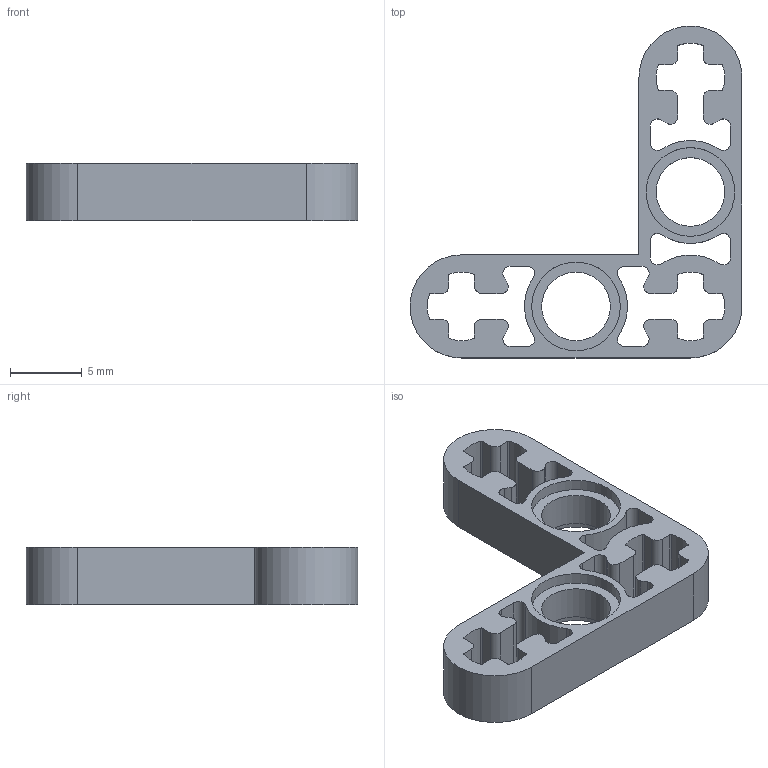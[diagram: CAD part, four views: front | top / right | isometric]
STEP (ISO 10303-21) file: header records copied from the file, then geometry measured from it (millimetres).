
FILE_DESCRIPTION(/* description */ ('Unknown'),/* implementation_level */ '2;1');
FILE_NAME(/* name */ 'Ye_4112289_AVV',/* time_stamp */ '2025-07-22T00:06:43+02:00',/* author */ ('Unknown'),/* organization */ ('Unknown'),/* preprocessor_version */ 'ST-DEVELOPER v19.4',/* originating_system */ 'Solid Edge',/* authorisation */ 'Unknown');
FILE_SCHEMA (('AUTOMOTIVE_DESIGN {1 0 10303 214 3 1 1}'));
Length unit declared in the file: millimetre
Products named in the file (1): Ye_4112289_AVV
Bounding box: 23.2 x 23.2 x 4 mm (x, y, z)
Volume: 565.7 mm3; surface area: 1201.6 mm2
Topology: 1 solids, 1 shells, 123 faces, 351 edges, 234 vertices
Faces by surface type: cylinder 81, plane 42
Full cylindrical faces by diameter (mm): 4.8 x2, 6.2 x4
Entity records: 4111 total; most frequent: DIRECTION 755, CARTESIAN_POINT 703, ORIENTED_EDGE 690, EDGE_CURVE 345, AXIS2_PLACEMENT_3D 286, VERTEX_POINT 234, LINE 183, VECTOR 183
